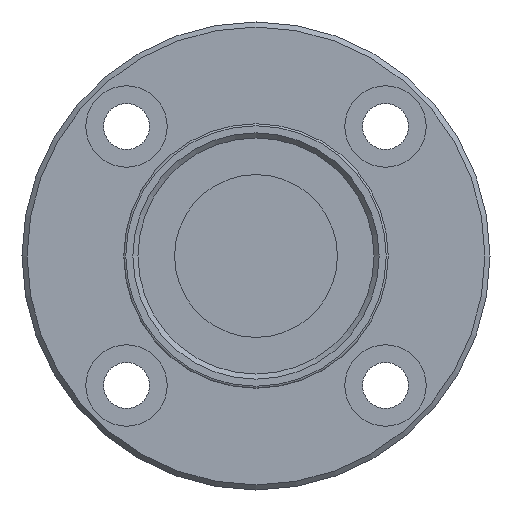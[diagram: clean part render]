
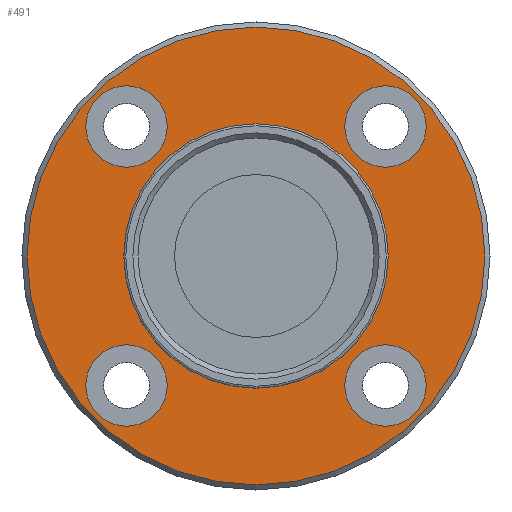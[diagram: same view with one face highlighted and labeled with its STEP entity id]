
A CAD part, front view. The second image highlights one B-rep face of the part: STEP entity #491.
In plain terms, the highlighted planar face has unit normal (0, -1, 0).
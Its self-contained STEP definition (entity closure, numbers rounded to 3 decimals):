
#101=CARTESIAN_POINT('',(-8.728,-35.0,-12.728));
#102=VERTEX_POINT('',#101);
#103=CARTESIAN_POINT('',(-12.728,-35.0,-12.728));
#104=DIRECTION('',(0.0,1.0,0.0));
#105=DIRECTION('',(1.0,0.0,0.0));
#106=AXIS2_PLACEMENT_3D('',#103,#104,#105);
#107=CIRCLE('',#106,4.0);
#108=EDGE_CURVE('',#102,#102,#107,.T.);
#169=CARTESIAN_POINT('',(16.728,-35.0,-12.728));
#170=VERTEX_POINT('',#169);
#171=CARTESIAN_POINT('',(12.728,-35.0,-12.728));
#172=DIRECTION('',(0.0,1.0,0.0));
#173=DIRECTION('',(1.0,0.0,0.0));
#174=AXIS2_PLACEMENT_3D('',#171,#172,#173);
#175=CIRCLE('',#174,4.0);
#176=EDGE_CURVE('',#170,#170,#175,.T.);
#237=CARTESIAN_POINT('',(16.728,-35.0,12.728));
#238=VERTEX_POINT('',#237);
#239=CARTESIAN_POINT('',(12.728,-35.0,12.728));
#240=DIRECTION('',(0.0,1.0,0.0));
#241=DIRECTION('',(1.0,0.0,0.0));
#242=AXIS2_PLACEMENT_3D('',#239,#240,#241);
#243=CIRCLE('',#242,4.0);
#244=EDGE_CURVE('',#238,#238,#243,.T.);
#305=CARTESIAN_POINT('',(-8.728,-35.0,12.728));
#306=VERTEX_POINT('',#305);
#307=CARTESIAN_POINT('',(-12.728,-35.0,12.728));
#308=DIRECTION('',(0.0,1.0,0.0));
#309=DIRECTION('',(1.0,0.0,0.0));
#310=AXIS2_PLACEMENT_3D('',#307,#308,#309);
#311=CIRCLE('',#310,4.0);
#312=EDGE_CURVE('',#306,#306,#311,.T.);
#345=CARTESIAN_POINT('',(13.,-35.0,0.0));
#346=VERTEX_POINT('',#345);
#347=CARTESIAN_POINT('',(0.0,-35.0,0.0));
#348=DIRECTION('',(0.0,-1.0,0.0));
#349=DIRECTION('',(1.0,0.0,0.0));
#350=AXIS2_PLACEMENT_3D('',#347,#348,#349);
#351=CIRCLE('',#350,13.);
#352=EDGE_CURVE('',#346,#346,#351,.T.);
#453=CARTESIAN_POINT('',(22.5,-35.0,0.0));
#454=VERTEX_POINT('',#453);
#455=CARTESIAN_POINT('',(0.0,-35.0,0.0));
#456=DIRECTION('',(0.0,-1.0,0.0));
#457=DIRECTION('',(1.0,0.0,0.0));
#458=AXIS2_PLACEMENT_3D('',#455,#456,#457);
#459=CIRCLE('',#458,22.5);
#460=EDGE_CURVE('',#454,#454,#459,.T.);
#468=CARTESIAN_POINT('',(17.75,-35.0,0.0));
#469=DIRECTION('',(0.0,-1.0,0.0));
#470=DIRECTION('',(0.0,0.0,-1.0));
#471=AXIS2_PLACEMENT_3D('',#468,#469,#470);
#472=PLANE('',#471);
#473=ORIENTED_EDGE('',*,*,#460,.T.);
#474=EDGE_LOOP('',(#473));
#475=FACE_OUTER_BOUND('',#474,.T.);
#476=ORIENTED_EDGE('',*,*,#108,.T.);
#477=EDGE_LOOP('',(#476));
#478=FACE_BOUND('',#477,.T.);
#479=ORIENTED_EDGE('',*,*,#176,.T.);
#480=EDGE_LOOP('',(#479));
#481=FACE_BOUND('',#480,.T.);
#482=ORIENTED_EDGE('',*,*,#244,.T.);
#483=EDGE_LOOP('',(#482));
#484=FACE_BOUND('',#483,.T.);
#485=ORIENTED_EDGE('',*,*,#312,.T.);
#486=EDGE_LOOP('',(#485));
#487=FACE_BOUND('',#486,.T.);
#488=ORIENTED_EDGE('',*,*,#352,.F.);
#489=EDGE_LOOP('',(#488));
#490=FACE_BOUND('',#489,.T.);
#491=ADVANCED_FACE('',(#475,#478,#481,#484,#487,#490),#472,.T.);
